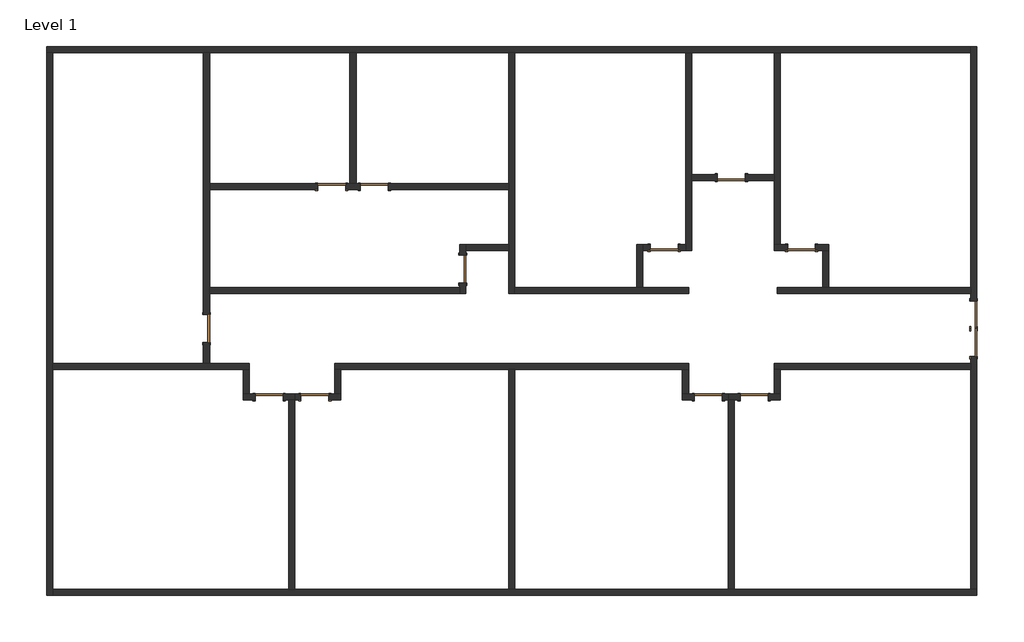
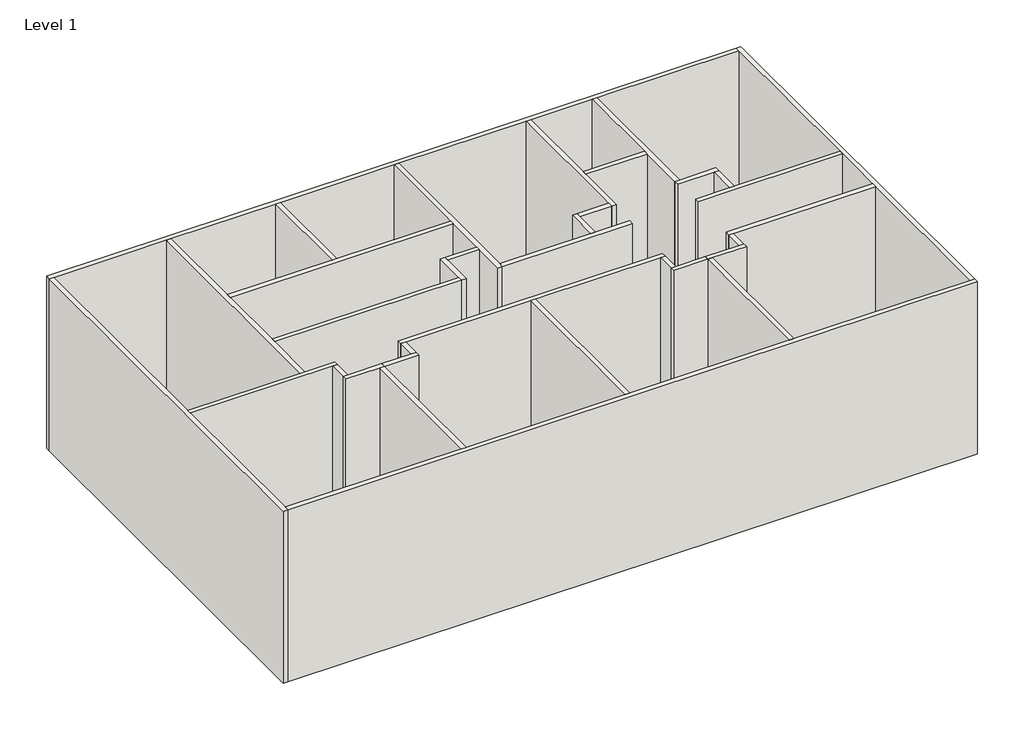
# One storey: 34 walls, 13 doors.
"""IFC4 building model written with IfcOpenShell, lengths in millimetres."""

from ifc_helpers import new_model, si_unit, frame, origin, origin_with_axes, place, context, project, spatial, polyline, outline, extrude, faceted_brep, transform, mapped, element, save
from components import m_single_flush_0915_x_2134mm_6a9e8738, m_single_flush_0915_x_2134mm_727434cd

model = new_model("IFC4")

# Units and contexts
model_context = context("Model", 3, world=origin())
ifc_project = project(units=[si_unit("LENGTHUNIT", "METRE", prefix="MILLI")], contexts=[model_context])

# Site, building, storey
site = spatial("IfcSite", under=ifc_project)
building = spatial("IfcBuilding", under=site)
storey = spatial("IfcBuildingStorey", under=building, Name="Level 1", Elevation=0.0)

# Doors
placement = place(None, origin())
m_single_flush_0915_x_2134mm_shape = m_single_flush_0915_x_2134mm_6a9e8738(model_context)
element("IfcDoor", 1, ObjectType="M_Single-Flush : 0915 x 2134mm", at=placement, inside=storey, context=model_context, shape_type="MappedRepresentation", body=[
    mapped(m_single_flush_0915_x_2134mm_shape, transform((-21354.7532324, -14862.7247407, 0.0), x_axis=(-1.0, 0.0, 0.0), y_axis=(0.0, -1.0, 0.0), z_axis=(0.0, 0.0, 1.0))),
])
element("IfcDoor", 2, ObjectType="M_Single-Flush : 0915 x 2134mm", at=placement, inside=storey, context=model_context, shape_type="MappedRepresentation", body=[
    mapped(m_single_flush_0915_x_2134mm_shape, transform((-23554.7532324, -17162.7247407, 0.0), x_axis=(-1.0, 0.0, 0.0), y_axis=(0.0, -1.0, 0.0), z_axis=(0.0, 0.0, 1.0))),
])
element("IfcDoor", 3, ObjectType="M_Single-Flush : 0915 x 2134mm", at=placement, inside=storey, context=model_context, shape_type="MappedRepresentation", body=[
    mapped(m_single_flush_0915_x_2134mm_shape, transform((-34454.7532324, -15162.7247407, 0.0), x_axis=(1.0, 0.0, 0.0), y_axis=(0.0, 1.0, 0.0), z_axis=(0.0, 0.0, 1.0))),
])
element("IfcDoor", 4, ObjectType="M_Single-Flush : 0915 x 2134mm", at=placement, inside=storey, context=model_context, shape_type="MappedRepresentation", body=[
    mapped(m_single_flush_0915_x_2134mm_shape, transform((-20604.7532324, -22062.7247407, 0.0), x_axis=(1.0, 0.0, 0.0), y_axis=(0.0, 1.0, 0.0), z_axis=(0.0, 0.0, 1.0))),
])
element("IfcDoor", 5, ObjectType="M_Single-Flush : 0915 x 2134mm", at=placement, inside=storey, context=model_context, shape_type="MappedRepresentation", body=[
    mapped(m_single_flush_0915_x_2134mm_shape, transform((-35004.7532324, -22062.7247407, 0.0), x_axis=(1.0, 0.0, 0.0), y_axis=(0.0, 1.0, 0.0), z_axis=(0.0, 0.0, 1.0))),
])
element("IfcDoor", 6, ObjectType="M_Single-Flush : 0915 x 2134mm", at=placement, inside=storey, context=model_context, shape_type="MappedRepresentation", body=[
    mapped(m_single_flush_0915_x_2134mm_shape, transform((-13412.7680392, -20274.8471091, 0.0), x_axis=(0.0, -1.0, 0.0), y_axis=(1.0, 0.0, 0.0), z_axis=(0.0, 0.0, 1.0))),
])
m_single_flush_0915_x_2134mm_2_shape = m_single_flush_0915_x_2134mm_727434cd(model_context)
element("IfcDoor", 7, ObjectType="M_Single-Flush : 0915 x 2134mm", at=placement, inside=storey, context=model_context, shape_type="MappedRepresentation", body=[
    mapped(m_single_flush_0915_x_2134mm_2_shape, transform((-19054.7532324, -17162.7247407, 0.0), x_axis=(1.0, 0.0, 0.0), y_axis=(0.0, 1.0, 0.0), z_axis=(0.0, 0.0, 1.0))),
])
element("IfcDoor", 8, ObjectType="M_Single-Flush : 0915 x 2134mm", at=placement, inside=storey, context=model_context, shape_type="MappedRepresentation", body=[
    mapped(m_single_flush_0915_x_2134mm_2_shape, transform((-30154.7532324, -17862.7247407, 0.0), x_axis=(0.0, 1.0, 0.0), y_axis=(-1.0, 0.0, 0.0), z_axis=(0.0, 0.0, 1.0))),
])
element("IfcDoor", 9, ObjectType="M_Single-Flush : 0915 x 2134mm", at=placement, inside=storey, context=model_context, shape_type="MappedRepresentation", body=[
    mapped(m_single_flush_0915_x_2134mm_2_shape, transform((-33054.7532324, -15162.7247407, 0.0), x_axis=(-1.0, 0.0, 0.0), y_axis=(0.0, -1.0, 0.0), z_axis=(0.0, 0.0, 1.0))),
])
element("IfcDoor", 10, ObjectType="M_Single-Flush : 0915 x 2134mm", at=placement, inside=storey, context=model_context, shape_type="MappedRepresentation", body=[
    mapped(m_single_flush_0915_x_2134mm_2_shape, transform((-38554.7532324, -19817.3471091, 0.0), x_axis=(0.0, 1.0, 0.0), y_axis=(-1.0, 0.0, 0.0), z_axis=(0.0, 0.0, 1.0))),
])
element("IfcDoor", 11, ObjectType="M_Single-Flush : 0915 x 2134mm", at=placement, inside=storey, context=model_context, shape_type="MappedRepresentation", body=[
    mapped(m_single_flush_0915_x_2134mm_2_shape, transform((-36504.7532324, -22062.7247407, 0.0), x_axis=(-1.0, 0.0, 0.0), y_axis=(0.0, -1.0, 0.0), z_axis=(0.0, 0.0, 1.0))),
])
element("IfcDoor", 12, ObjectType="M_Single-Flush : 0915 x 2134mm", at=placement, inside=storey, context=model_context, shape_type="MappedRepresentation", body=[
    mapped(m_single_flush_0915_x_2134mm_2_shape, transform((-22104.7532324, -22062.7247407, 0.0), x_axis=(-1.0, 0.0, 0.0), y_axis=(0.0, -1.0, 0.0), z_axis=(0.0, 0.0, 1.0))),
])
element("IfcDoor", 13, ObjectType="M_Single-Flush : 0915 x 2134mm", at=placement, inside=storey, context=model_context, shape_type="MappedRepresentation", body=[
    mapped(m_single_flush_0915_x_2134mm_2_shape, transform((-13412.7680392, -19359.8471091, 0.0), x_axis=(0.0, 1.0, 0.0), y_axis=(-1.0, 0.0, 0.0), z_axis=(0.0, 0.0, 1.0))),
])

# Walls
element("IfcWall", 14, ObjectType="Generic - 200mm", at=placement, inside=storey, context=model_context, shape_type="Brep", body=[
    faceted_brep([(-43796.7384256, -10762.7247407, 0.0), (-43596.7384256, -10762.7247407, 0.0), (-38654.7532324, -10762.7247407, 0.0), (-38454.7532324, -10762.7247407, 0.0), (-33854.7532324, -10762.7247407, 0.0), (-33654.7532324, -10762.7247407, 0.0), (-28654.7532324, -10762.7247407, 0.0), (-28454.7532324, -10762.7247407, 0.0), (-22854.7532324, -10762.7247407, 0.0), (-22654.7532324, -10762.7247407, 0.0), (-19954.7532324, -10762.7247407, 0.0), (-19754.7532324, -10762.7247407, 0.0), (-13512.7680392, -10762.7247407, 0.0), (-13512.7680392, -10762.7247407, 8000.0), (-19754.7532324, -10762.7247407, 8000.0), (-19954.7532324, -10762.7247407, 8000.0), (-22654.7532324, -10762.7247407, 8000.0), (-22854.7532324, -10762.7247407, 8000.0), (-28454.7532324, -10762.7247407, 8000.0), (-28654.7532324, -10762.7247407, 8000.0), (-33654.7532324, -10762.7247407, 8000.0), (-33854.7532324, -10762.7247407, 8000.0), (-38454.7532324, -10762.7247407, 8000.0), (-38654.7532324, -10762.7247407, 8000.0), (-43596.7384256, -10762.7247407, 8000.0), (-43796.7384256, -10762.7247407, 8000.0), (-43796.7384256, -10562.7247407, 0.0), (-43796.7384256, -10562.7247407, 8000.0), (-13512.7680392, -10562.7247407, 8000.0), (-13512.7680392, -10562.7247407, 0.0)], [[[0, 1, 2, 3, 4, 5, 6, 7, 8, 9, 10, 11, 12, 13, 14, 15, 16, 17, 18, 19, 20, 21, 22, 23, 24, 25]], [[26, 27, 28, 29]], [[12, 11, 10, 9, 8, 7, 6, 5, 4, 3, 2, 1, 0, 26, 29]], [[25, 24, 23, 22, 21, 20, 19, 18, 17, 16, 15, 14, 13, 28, 27]], [[0, 25, 27, 26]], [[13, 12, 29, 28]]]),
])
element("IfcWall", 15, ObjectType="Generic - 200mm", at=placement, inside=storey, context=model_context, shape_type="Brep", body=[
    faceted_brep([(-43596.7384256, -28562.7247407, 0.0), (-43596.7384256, -28362.7247407, 0.0), (-43596.7384256, -21162.7247407, 0.0), (-43596.7384256, -20962.7247407, 0.0), (-43596.7384256, -10762.7247407, 0.0), (-43596.7384256, -10762.7247407, 8000.0), (-43596.7384256, -20962.7247407, 8000.0), (-43596.7384256, -21162.7247407, 8000.0), (-43596.7384256, -28362.7247407, 8000.0), (-43596.7384256, -28562.7247407, 8000.0), (-43796.7384256, -28562.7247407, 0.0), (-43796.7384256, -28562.7247407, 8000.0), (-43796.7384256, -10762.7247407, 8000.0), (-43796.7384256, -10762.7247407, 0.0)], [[[0, 1, 2, 3, 4, 5, 6, 7, 8, 9]], [[10, 11, 12, 13]], [[4, 3, 2, 1, 0, 10, 13]], [[9, 8, 7, 6, 5, 12, 11]], [[0, 9, 11, 10]], [[5, 4, 13, 12]]]),
])
element("IfcWall", 16, ObjectType="Generic - 200mm", at=placement, inside=storey, context=model_context, shape_type="Brep", body=[
    faceted_brep([(-13312.7680392, -28362.7247407, 0.0), (-13512.7680392, -28362.7247407, 0.0), (-21254.7532324, -28362.7247407, 0.0), (-21454.7532324, -28362.7247407, 0.0), (-28454.7532324, -28362.7247407, 0.0), (-28654.7532324, -28362.7247407, 0.0), (-35654.7532324, -28362.7247407, 0.0), (-35854.7532324, -28362.7247407, 0.0), (-43596.7384256, -28362.7247407, 0.0), (-43596.7384256, -28362.7247407, 8000.0), (-35854.7532324, -28362.7247407, 8000.0), (-35654.7532324, -28362.7247407, 8000.0), (-28654.7532324, -28362.7247407, 8000.0), (-28454.7532324, -28362.7247407, 8000.0), (-21454.7532324, -28362.7247407, 8000.0), (-21254.7532324, -28362.7247407, 8000.0), (-13512.7680392, -28362.7247407, 8000.0), (-13312.7680392, -28362.7247407, 8000.0), (-13312.7680392, -28562.7247407, 0.0), (-13312.7680392, -28562.7247407, 8000.0), (-43596.7384256, -28562.7247407, 8000.0), (-43596.7384256, -28562.7247407, 0.0)], [[[0, 1, 2, 3, 4, 5, 6, 7, 8, 9, 10, 11, 12, 13, 14, 15, 16, 17]], [[18, 19, 20, 21]], [[8, 7, 6, 5, 4, 3, 2, 1, 0, 18, 21]], [[17, 16, 15, 14, 13, 12, 11, 10, 9, 20, 19]], [[0, 17, 19, 18]], [[9, 8, 21, 20]]]),
])
element("IfcWall", 17, ObjectType="Generic - 200mm", at=placement, inside=storey, context=model_context, shape_type="Brep", body=[
    faceted_brep([(-13512.7680392, -28362.7247407, 8000.0), (-13512.7680392, -21162.7247407, 8000.0), (-13512.7680392, -20962.7247407, 8000.0), (-13512.7680392, -18662.7247407, 8000.0), (-13512.7680392, -18462.7247407, 8000.0), (-13512.7680392, -10762.7247407, 8000.0), (-13512.7680392, -10562.7247407, 8000.0), (-13512.7680392, -10562.7247407, 0.0), (-13512.7680392, -10762.7247407, 0.0), (-13512.7680392, -18462.7247407, 0.0), (-13512.7680392, -18662.7247407, 0.0), (-13512.7680392, -18902.3471091, 0.0), (-13512.7680392, -18902.3471091, 2134.0), (-13512.7680392, -20732.3471091, 2134.0), (-13512.7680392, -20732.3471091, 0.0), (-13512.7680392, -20962.7247407, 0.0), (-13512.7680392, -21162.7247407, 0.0), (-13512.7680392, -28362.7247407, 0.0), (-13312.7680392, -10562.7247407, 8000.0), (-13312.7680392, -28362.7247407, 8000.0), (-13312.7680392, -28362.7247407, 0.0), (-13312.7680392, -20732.3471091, 0.0), (-13312.7680392, -20732.3471091, 2134.0), (-13312.7680392, -18902.3471091, 2134.0), (-13312.7680392, -18902.3471091, 0.0), (-13312.7680392, -10562.7247407, 0.0)], [[[0, 1, 2, 3, 4, 5, 6, 7, 8, 9, 10, 11, 12, 13, 14, 15, 16, 17]], [[18, 19, 20, 21, 22, 23, 24, 25]], [[7, 25, 24, 11, 10, 9, 8]], [[20, 17, 16, 15, 14, 21]], [[6, 5, 4, 3, 2, 1, 0, 19, 18]], [[7, 6, 18, 25]], [[0, 17, 20, 19]], [[22, 21, 14, 13]], [[22, 13, 12, 23]], [[23, 12, 11, 24]]]),
])
element("IfcWall", 18, ObjectType="Generic - 200mm", at=placement, inside=storey, context=model_context, shape_type="Brep", body=[
    faceted_brep([(-28654.7532324, -10762.7247407, 0.0), (-28654.7532324, -15062.7247407, 0.0), (-28654.7532324, -15262.7247407, 0.0), (-28654.7532324, -17062.7247407, 0.0), (-28654.7532324, -17262.7247407, 0.0), (-28654.7532324, -18662.7247407, 0.0), (-28654.7532324, -18662.7247407, 8000.0), (-28654.7532324, -17262.7247407, 8000.0), (-28654.7532324, -17062.7247407, 8000.0), (-28654.7532324, -15262.7247407, 8000.0), (-28654.7532324, -15062.7247407, 8000.0), (-28654.7532324, -10762.7247407, 8000.0), (-28454.7532324, -10762.7247407, 0.0), (-28454.7532324, -10762.7247407, 8000.0), (-28454.7532324, -18462.7247407, 8000.0), (-28454.7532324, -18662.7247407, 8000.0), (-28454.7532324, -18662.7247407, 0.0), (-28454.7532324, -18462.7247407, 0.0)], [[[0, 1, 2, 3, 4, 5, 6, 7, 8, 9, 10, 11]], [[12, 13, 14, 15, 16, 17]], [[5, 4, 3, 2, 1, 0, 12, 17, 16]], [[11, 10, 9, 8, 7, 6, 15, 14, 13]], [[0, 11, 13, 12]], [[6, 5, 16, 15]]]),
])
element("IfcWall", 19, ObjectType="Generic - 200mm", at=placement, inside=storey, context=model_context, shape_type="Brep", body=[
    faceted_brep([(-28454.7532324, -18662.7247407, 0.0), (-22754.7532324, -18662.7247407, 0.0), (-22754.7532324, -18662.7247407, 8000.0), (-28454.7532324, -18662.7247407, 8000.0), (-28454.7532324, -18462.7247407, 0.0), (-28454.7532324, -18462.7247407, 8000.0), (-24454.7532324, -18462.7247407, 8000.0), (-24254.7532324, -18462.7247407, 8000.0), (-22754.7532324, -18462.7247407, 8000.0), (-22754.7532324, -18462.7247407, 0.0), (-24254.7532324, -18462.7247407, 0.0), (-24454.7532324, -18462.7247407, 0.0)], [[[0, 1, 2, 3]], [[4, 5, 6, 7, 8, 9, 10, 11]], [[1, 0, 4, 11, 10, 9]], [[2, 1, 9, 8]], [[3, 2, 8, 7, 6, 5]], [[0, 3, 5, 4]]]),
])
element("IfcWall", 20, ObjectType="Generic - 200mm", at=placement, inside=storey, context=model_context, shape_type="Brep", body=[
    faceted_brep([(-43596.7384256, -21162.7247407, 0.0), (-37354.7532324, -21162.7247407, 0.0), (-37154.7532324, -21162.7247407, 0.0), (-37154.7532324, -21162.7247407, 8000.0), (-37354.7532324, -21162.7247407, 8000.0), (-43596.7384256, -21162.7247407, 8000.0), (-43596.7384256, -20962.7247407, 0.0), (-43596.7384256, -20962.7247407, 8000.0), (-38654.7532324, -20962.7247407, 8000.0), (-38454.7532324, -20962.7247407, 8000.0), (-37154.7532324, -20962.7247407, 8000.0), (-37154.7532324, -20962.7247407, 0.0), (-38454.7532324, -20962.7247407, 0.0), (-38654.7532324, -20962.7247407, 0.0)], [[[0, 1, 2, 3, 4, 5]], [[6, 7, 8, 9, 10, 11, 12, 13]], [[2, 1, 0, 6, 13, 12, 11]], [[5, 4, 3, 10, 9, 8, 7]], [[0, 5, 7, 6]], [[3, 2, 11, 10]]]),
])
element("IfcWall", 21, ObjectType="Generic - 200mm", at=placement, inside=storey, context=model_context, shape_type="Brep", body=[
    faceted_brep([(-22854.7532324, -10762.7247407, 0.0), (-22854.7532324, -17062.7247407, 0.0), (-22854.7532324, -17262.7247407, 0.0), (-22854.7532324, -17262.7247407, 8000.0), (-22854.7532324, -17062.7247407, 8000.0), (-22854.7532324, -10762.7247407, 8000.0), (-22654.7532324, -10762.7247407, 0.0), (-22654.7532324, -10762.7247407, 8000.0), (-22654.7532324, -14762.7247407, 8000.0), (-22654.7532324, -14962.7247407, 8000.0), (-22654.7532324, -17262.7247407, 8000.0), (-22654.7532324, -17262.7247407, 0.0), (-22654.7532324, -14962.7247407, 0.0), (-22654.7532324, -14762.7247407, 0.0)], [[[0, 1, 2, 3, 4, 5]], [[6, 7, 8, 9, 10, 11, 12, 13]], [[2, 1, 0, 6, 13, 12, 11]], [[5, 4, 3, 10, 9, 8, 7]], [[0, 5, 7, 6]], [[3, 2, 11, 10]]]),
])
element("IfcWall", 22, ObjectType="Generic - 200mm", at=placement, inside=storey, context=model_context, shape_type="SweptSolid", body=[
    extrude(outline(polyline([(0.0, -22654.7532324), (0.0, -21812.2532324), (2134.0, -21812.2532324), (2134.0, -20897.2532324), (0.0, -20897.2532324), (0.0, -19954.7532324), (8000.0, -19954.7532324), (8000.0, -22654.7532324), (0.0, -22654.7532324)])), frame((0.0, -14962.7247407, 0.0), z_axis=(0.0, 1.0, 0.0), x_axis=(0.0, 0.0, 1.0)), (0.0, 0.0, 1.0), 200.0),
])
element("IfcWall", 23, ObjectType="Generic - 200mm", at=placement, inside=storey, context=model_context, shape_type="Brep", body=[
    faceted_brep([(-19954.7532324, -10762.7247407, 0.0), (-19954.7532324, -14762.7247407, 0.0), (-19954.7532324, -14962.7247407, 0.0), (-19954.7532324, -17062.7247407, 0.0), (-19954.7532324, -17062.7247407, 8000.0), (-19954.7532324, -14962.7247407, 8000.0), (-19954.7532324, -14762.7247407, 8000.0), (-19954.7532324, -10762.7247407, 8000.0), (-19754.7532324, -10762.7247407, 0.0), (-19754.7532324, -10762.7247407, 8000.0), (-19754.7532324, -17062.7247407, 8000.0), (-19754.7532324, -17062.7247407, 0.0)], [[[0, 1, 2, 3, 4, 5, 6, 7]], [[8, 9, 10, 11]], [[3, 2, 1, 0, 8, 11]], [[7, 6, 5, 4, 10, 9]], [[0, 7, 9, 8]], [[4, 3, 11, 10]]]),
])
element("IfcWall", 24, ObjectType="Generic - 200mm", at=placement, inside=storey, context=model_context, shape_type="SweptSolid", body=[
    extrude(outline(polyline([(-35854.7532324, -28362.7247407), (-35854.7532324, -22162.7247407), (-35654.7532324, -22162.7247407), (-35654.7532324, -28362.7247407), (-35854.7532324, -28362.7247407)])), origin_with_axes(), (0.0, 0.0, 1.0), 8000.0),
])
element("IfcWall", 25, ObjectType="Generic - 200mm", at=placement, inside=storey, context=model_context, shape_type="SweptSolid", body=[
    extrude(outline(polyline([(-28654.7532324, -28362.7247407), (-28654.7532324, -21162.7247407), (-28454.7532324, -21162.7247407), (-28454.7532324, -28362.7247407), (-28654.7532324, -28362.7247407)])), origin_with_axes(), (0.0, 0.0, 1.0), 8000.0),
])
element("IfcWall", 26, ObjectType="Generic - 200mm", at=placement, inside=storey, context=model_context, shape_type="SweptSolid", body=[
    extrude(outline(polyline([(-21454.7532324, -28362.7247407), (-21454.7532324, -22162.7247407), (-21254.7532324, -22162.7247407), (-21254.7532324, -28362.7247407), (-21454.7532324, -28362.7247407)])), origin_with_axes(), (0.0, 0.0, 1.0), 8000.0),
])
element("IfcWall", 27, ObjectType="Generic - 200mm", at=placement, inside=storey, context=model_context, shape_type="SweptSolid", body=[
    extrude(outline(polyline([(-38454.7532324, -18462.7247407), (-30254.7532324, -18462.7247407), (-30254.7532324, -18662.7247407), (-38454.7532324, -18662.7247407), (-38454.7532324, -18462.7247407)])), origin_with_axes(), (0.0, 0.0, 1.0), 8000.0),
])
element("IfcWall", 28, ObjectType="Generic - 200mm", at=placement, inside=storey, context=model_context, shape_type="Brep", body=[
    faceted_brep([(-38654.7532324, -10762.7247407, 0.0), (-38654.7532324, -19359.8471091, 0.0), (-38654.7532324, -19359.8471091, 2134.0), (-38654.7532324, -20274.8471091, 2134.0), (-38654.7532324, -20274.8471091, 0.0), (-38654.7532324, -20962.7247407, 0.0), (-38654.7532324, -20962.7247407, 8000.0), (-38654.7532324, -10762.7247407, 8000.0), (-38454.7532324, -19359.8471091, 2134.0), (-38454.7532324, -19359.8471091, 0.0), (-38454.7532324, -18662.7247407, 0.0), (-38454.7532324, -18462.7247407, 0.0), (-38454.7532324, -15262.7247407, 0.0), (-38454.7532324, -15062.7247407, 0.0), (-38454.7532324, -10762.7247407, 0.0), (-38454.7532324, -10762.7247407, 8000.0), (-38454.7532324, -15062.7247407, 8000.0), (-38454.7532324, -15262.7247407, 8000.0), (-38454.7532324, -18462.7247407, 8000.0), (-38454.7532324, -18662.7247407, 8000.0), (-38454.7532324, -20962.7247407, 8000.0), (-38454.7532324, -20962.7247407, 0.0), (-38454.7532324, -20274.8471091, 0.0), (-38454.7532324, -20274.8471091, 2134.0)], [[[0, 1, 2, 3, 4, 5, 6, 7]], [[8, 9, 10, 11, 12, 13, 14, 15, 16, 17, 18, 19, 20, 21, 22, 23]], [[22, 21, 5, 4]], [[14, 13, 12, 11, 10, 9, 1, 0]], [[7, 6, 20, 19, 18, 17, 16, 15]], [[0, 7, 15, 14]], [[2, 1, 9, 8]], [[3, 2, 8, 23]], [[4, 3, 23, 22]], [[6, 5, 21, 20]]]),
])
element("IfcWall", 29, ObjectType="Generic - 200mm", at=placement, inside=storey, context=model_context, shape_type="Brep", body=[
    faceted_brep([(-19854.7532324, -18662.7247407, 0.0), (-13512.7680392, -18662.7247407, 0.0), (-13512.7680392, -18662.7247407, 8000.0), (-19854.7532324, -18662.7247407, 8000.0), (-19854.7532324, -18462.7247407, 0.0), (-19854.7532324, -18462.7247407, 8000.0), (-18354.7532324, -18462.7247407, 8000.0), (-18154.7532324, -18462.7247407, 8000.0), (-13512.7680392, -18462.7247407, 8000.0), (-13512.7680392, -18462.7247407, 0.0), (-18154.7532324, -18462.7247407, 0.0), (-18354.7532324, -18462.7247407, 0.0)], [[[0, 1, 2, 3]], [[4, 5, 6, 7, 8, 9, 10, 11]], [[1, 0, 4, 11, 10, 9]], [[3, 2, 8, 7, 6, 5]], [[0, 3, 5, 4]], [[2, 1, 9, 8]]]),
])
element("IfcWall", 30, ObjectType="Generic - 200mm", at=placement, inside=storey, context=model_context, shape_type="SweptSolid", body=[
    extrude(outline(polyline([(-33854.7532324, -15062.7247407), (-33854.7532324, -10762.7247407), (-33654.7532324, -10762.7247407), (-33654.7532324, -15062.7247407), (-33854.7532324, -15062.7247407)])), origin_with_axes(), (0.0, 0.0, 1.0), 8000.0),
])
element("IfcWall", 31, ObjectType="Generic - 200mm", at=placement, inside=storey, context=model_context, shape_type="Brep", body=[
    faceted_brep([(-33512.2532324, -15062.7247407, 2134.0), (-33512.2532324, -15062.7247407, 0.0), (-33654.7532324, -15062.7247407, 0.0), (-33854.7532324, -15062.7247407, 0.0), (-33997.2532324, -15062.7247407, 0.0), (-33997.2532324, -15062.7247407, 2134.0), (-34912.2532324, -15062.7247407, 2134.0), (-34912.2532324, -15062.7247407, 0.0), (-38454.7532324, -15062.7247407, 0.0), (-38454.7532324, -15062.7247407, 8000.0), (-33854.7532324, -15062.7247407, 8000.0), (-33654.7532324, -15062.7247407, 8000.0), (-28654.7532324, -15062.7247407, 8000.0), (-28654.7532324, -15062.7247407, 0.0), (-32597.2532324, -15062.7247407, 0.0), (-32597.2532324, -15062.7247407, 2134.0), (-33997.2532324, -15262.7247407, 0.0), (-33512.2532324, -15262.7247407, 0.0), (-33512.2532324, -15262.7247407, 2134.0), (-32597.2532324, -15262.7247407, 2134.0), (-32597.2532324, -15262.7247407, 0.0), (-28654.7532324, -15262.7247407, 0.0), (-28654.7532324, -15262.7247407, 8000.0), (-38454.7532324, -15262.7247407, 8000.0), (-38454.7532324, -15262.7247407, 0.0), (-34912.2532324, -15262.7247407, 0.0), (-34912.2532324, -15262.7247407, 2134.0), (-33997.2532324, -15262.7247407, 2134.0)], [[[0, 1, 2, 3, 4, 5, 6, 7, 8, 9, 10, 11, 12, 13, 14, 15]], [[16, 17, 18, 19, 20, 21, 22, 23, 24, 25, 26, 27]], [[25, 24, 8, 7]], [[14, 13, 21, 20]], [[4, 3, 2, 1, 17, 16]], [[12, 11, 10, 9, 23, 22]], [[13, 12, 22, 21]], [[9, 8, 24, 23]], [[5, 4, 16, 27]], [[6, 5, 27, 26]], [[7, 6, 26, 25]], [[18, 17, 1, 0]], [[19, 18, 0, 15]], [[20, 19, 15, 14]]]),
])
element("IfcWall", 32, ObjectType="Generic - 200mm", at=placement, inside=storey, context=model_context, shape_type="Brep", body=[
    faceted_brep([(-30054.7532324, -17405.2247407, 2134.0), (-30054.7532324, -17405.2247407, 0.0), (-30054.7532324, -17262.7247407, 0.0), (-30054.7532324, -17062.7247407, 0.0), (-30054.7532324, -17062.7247407, 8000.0), (-30054.7532324, -17262.7247407, 8000.0), (-30054.7532324, -18662.7247407, 8000.0), (-30054.7532324, -18662.7247407, 0.0), (-30054.7532324, -18320.2247407, 0.0), (-30054.7532324, -18320.2247407, 2134.0), (-30254.7532324, -17062.7247407, 0.0), (-30254.7532324, -17405.2247407, 0.0), (-30254.7532324, -17405.2247407, 2134.0), (-30254.7532324, -18320.2247407, 2134.0), (-30254.7532324, -18320.2247407, 0.0), (-30254.7532324, -18462.7247407, 0.0), (-30254.7532324, -18662.7247407, 0.0), (-30254.7532324, -18662.7247407, 8000.0), (-30254.7532324, -18462.7247407, 8000.0), (-30254.7532324, -17062.7247407, 8000.0)], [[[0, 1, 2, 3, 4, 5, 6, 7, 8, 9]], [[10, 11, 12, 13, 14, 15, 16, 17, 18, 19]], [[8, 7, 16, 15, 14]], [[3, 2, 1, 11, 10]], [[6, 5, 4, 19, 18, 17]], [[4, 3, 10, 19]], [[7, 6, 17, 16]], [[12, 11, 1, 0]], [[13, 12, 0, 9]], [[14, 13, 9, 8]]]),
])
element("IfcWall", 33, ObjectType="Generic - 200mm", at=placement, inside=storey, context=model_context, shape_type="SweptSolid", body=[
    extrude(outline(polyline([(-28654.7532324, -17262.7247407), (-30054.7532324, -17262.7247407), (-30054.7532324, -17062.7247407), (-28654.7532324, -17062.7247407), (-28654.7532324, -17262.7247407)])), origin_with_axes(), (0.0, 0.0, 1.0), 8000.0),
])
element("IfcWall", 34, ObjectType="Generic - 200mm", at=placement, inside=storey, context=model_context, shape_type="Brep", body=[
    faceted_brep([(-24254.7532324, -18462.7247407, 0.0), (-24254.7532324, -17262.7247407, 0.0), (-24254.7532324, -17062.7247407, 0.0), (-24254.7532324, -17062.7247407, 8000.0), (-24254.7532324, -17262.7247407, 8000.0), (-24254.7532324, -18462.7247407, 8000.0), (-24454.7532324, -18462.7247407, 0.0), (-24454.7532324, -18462.7247407, 8000.0), (-24454.7532324, -17062.7247407, 8000.0), (-24454.7532324, -17062.7247407, 0.0)], [[[0, 1, 2, 3, 4, 5]], [[6, 7, 8, 9]], [[2, 1, 0, 6, 9]], [[5, 4, 3, 8, 7]], [[0, 5, 7, 6]], [[3, 2, 9, 8]]]),
])
element("IfcWall", 35, ObjectType="Generic - 200mm", at=placement, inside=storey, context=model_context, shape_type="SweptSolid", body=[
    extrude(outline(polyline([(0.0, -24254.7532324), (0.0, -24012.2532324), (2134.0, -24012.2532324), (2134.0, -23097.2532324), (0.0, -23097.2532324), (0.0, -22854.7532324), (8000.0, -22854.7532324), (8000.0, -24254.7532324), (0.0, -24254.7532324)])), frame((0.0, -17262.7247407, 0.0), z_axis=(0.0, 1.0, 0.0), x_axis=(0.0, 0.0, 1.0)), (0.0, 0.0, 1.0), 200.0),
])
element("IfcWall", 36, ObjectType="Generic - 200mm", at=placement, inside=storey, context=model_context, shape_type="Brep", body=[
    faceted_brep([(-18597.2532324, -17262.7247407, 2134.0), (-18597.2532324, -17262.7247407, 0.0), (-18354.7532324, -17262.7247407, 0.0), (-18154.7532324, -17262.7247407, 0.0), (-18154.7532324, -17262.7247407, 8000.0), (-18354.7532324, -17262.7247407, 8000.0), (-19954.7532324, -17262.7247407, 8000.0), (-19954.7532324, -17262.7247407, 0.0), (-19512.2532324, -17262.7247407, 0.0), (-19512.2532324, -17262.7247407, 2134.0), (-18154.7532324, -17062.7247407, 0.0), (-18597.2532324, -17062.7247407, 0.0), (-18597.2532324, -17062.7247407, 2134.0), (-19512.2532324, -17062.7247407, 2134.0), (-19512.2532324, -17062.7247407, 0.0), (-19754.7532324, -17062.7247407, 0.0), (-19954.7532324, -17062.7247407, 0.0), (-19954.7532324, -17062.7247407, 8000.0), (-19754.7532324, -17062.7247407, 8000.0), (-18154.7532324, -17062.7247407, 8000.0)], [[[0, 1, 2, 3, 4, 5, 6, 7, 8, 9]], [[10, 11, 12, 13, 14, 15, 16, 17, 18, 19]], [[8, 7, 16, 15, 14]], [[3, 2, 1, 11, 10]], [[6, 5, 4, 19, 18, 17]], [[4, 3, 10, 19]], [[12, 11, 1, 0]], [[13, 12, 0, 9]], [[14, 13, 9, 8]], [[7, 6, 17, 16]]]),
])
element("IfcWall", 37, ObjectType="Generic - 200mm", at=placement, inside=storey, context=model_context, shape_type="SweptSolid", body=[
    extrude(outline(polyline([(-18354.7532324, -18462.7247407), (-18354.7532324, -17262.7247407), (-18154.7532324, -17262.7247407), (-18154.7532324, -18462.7247407), (-18354.7532324, -18462.7247407)])), origin_with_axes(), (0.0, 0.0, 1.0), 8000.0),
])
element("IfcWall", 38, ObjectType="Generic - 200mm", at=placement, inside=storey, context=model_context, shape_type="Brep", body=[
    faceted_brep([(-37354.7532324, -22162.7247407, 0.0), (-36962.2532324, -22162.7247407, 0.0), (-36962.2532324, -22162.7247407, 2134.0), (-36047.2532324, -22162.7247407, 2134.0), (-36047.2532324, -22162.7247407, 0.0), (-35854.7532324, -22162.7247407, 0.0), (-35654.7532324, -22162.7247407, 0.0), (-35654.7532324, -22162.7247407, 8000.0), (-35854.7532324, -22162.7247407, 8000.0), (-37354.7532324, -22162.7247407, 8000.0), (-36962.2532324, -21962.7247407, 2134.0), (-36962.2532324, -21962.7247407, 0.0), (-37154.7532324, -21962.7247407, 0.0), (-37354.7532324, -21962.7247407, 0.0), (-37354.7532324, -21962.7247407, 8000.0), (-37154.7532324, -21962.7247407, 8000.0), (-35654.7532324, -21962.7247407, 8000.0), (-35654.7532324, -21962.7247407, 0.0), (-36047.2532324, -21962.7247407, 0.0), (-36047.2532324, -21962.7247407, 2134.0)], [[[0, 1, 2, 3, 4, 5, 6, 7, 8, 9]], [[10, 11, 12, 13, 14, 15, 16, 17, 18, 19]], [[18, 17, 6, 5, 4]], [[13, 12, 11, 1, 0]], [[9, 8, 7, 16, 15, 14]], [[2, 1, 11, 10]], [[3, 2, 10, 19]], [[4, 3, 19, 18]], [[0, 9, 14, 13]], [[7, 6, 17, 16]]]),
])
element("IfcWall", 39, ObjectType="Generic - 200mm", at=placement, inside=storey, context=model_context, shape_type="SweptSolid", body=[
    extrude(outline(polyline([(-37354.7532324, -21962.7247407), (-37354.7532324, -21162.7247407), (-37154.7532324, -21162.7247407), (-37154.7532324, -21962.7247407), (-37354.7532324, -21962.7247407)])), origin_with_axes(), (0.0, 0.0, 1.0), 8000.0),
])
element("IfcWall", 40, ObjectType="Generic - 200mm", at=placement, inside=storey, context=model_context, shape_type="Brep", body=[
    faceted_brep([(-34354.7532324, -21162.7247407, 0.0), (-34154.7532324, -21162.7247407, 0.0), (-28654.7532324, -21162.7247407, 0.0), (-28454.7532324, -21162.7247407, 0.0), (-22954.7532324, -21162.7247407, 0.0), (-22754.7532324, -21162.7247407, 0.0), (-22754.7532324, -21162.7247407, 8000.0), (-22954.7532324, -21162.7247407, 8000.0), (-28454.7532324, -21162.7247407, 8000.0), (-28654.7532324, -21162.7247407, 8000.0), (-34154.7532324, -21162.7247407, 8000.0), (-34354.7532324, -21162.7247407, 8000.0), (-34354.7532324, -20962.7247407, 0.0), (-34354.7532324, -20962.7247407, 8000.0), (-22754.7532324, -20962.7247407, 8000.0), (-22754.7532324, -20962.7247407, 0.0)], [[[0, 1, 2, 3, 4, 5, 6, 7, 8, 9, 10, 11]], [[12, 13, 14, 15]], [[5, 4, 3, 2, 1, 0, 12, 15]], [[11, 10, 9, 8, 7, 6, 14, 13]], [[6, 5, 15, 14]], [[0, 11, 13, 12]]]),
])
element("IfcWall", 41, ObjectType="Generic - 200mm", at=placement, inside=storey, context=model_context, shape_type="Brep", body=[
    faceted_brep([(-22954.7532324, -22162.7247407, 0.0), (-22562.2532324, -22162.7247407, 0.0), (-22562.2532324, -22162.7247407, 2134.0), (-21647.2532324, -22162.7247407, 2134.0), (-21647.2532324, -22162.7247407, 0.0), (-21454.7532324, -22162.7247407, 0.0), (-21454.7532324, -22162.7247407, 8000.0), (-22954.7532324, -22162.7247407, 8000.0), (-22562.2532324, -21962.7247407, 2134.0), (-22562.2532324, -21962.7247407, 0.0), (-22754.7532324, -21962.7247407, 0.0), (-22954.7532324, -21962.7247407, 0.0), (-22954.7532324, -21962.7247407, 8000.0), (-22754.7532324, -21962.7247407, 8000.0), (-21454.7532324, -21962.7247407, 8000.0), (-21454.7532324, -21962.7247407, 0.0), (-21647.2532324, -21962.7247407, 0.0), (-21647.2532324, -21962.7247407, 2134.0)], [[[0, 1, 2, 3, 4, 5, 6, 7]], [[8, 9, 10, 11, 12, 13, 14, 15, 16, 17]], [[16, 15, 5, 4]], [[11, 10, 9, 1, 0]], [[7, 6, 14, 13, 12]], [[2, 1, 9, 8]], [[3, 2, 8, 17]], [[4, 3, 17, 16]], [[0, 7, 12, 11]], [[6, 5, 15, 14]]]),
])
element("IfcWall", 42, ObjectType="Generic - 200mm", at=placement, inside=storey, context=model_context, shape_type="SweptSolid", body=[
    extrude(outline(polyline([(-22954.7532324, -21962.7247407), (-22954.7532324, -21162.7247407), (-22754.7532324, -21162.7247407), (-22754.7532324, -21962.7247407), (-22954.7532324, -21962.7247407)])), origin_with_axes(), (0.0, 0.0, 1.0), 8000.0),
])
element("IfcWall", 43, ObjectType="Generic - 200mm", at=placement, inside=storey, context=model_context, shape_type="Brep", body=[
    faceted_brep([(-19954.7532324, -21162.7247407, 0.0), (-19754.7532324, -21162.7247407, 0.0), (-13512.7680392, -21162.7247407, 0.0), (-13512.7680392, -21162.7247407, 8000.0), (-19754.7532324, -21162.7247407, 8000.0), (-19954.7532324, -21162.7247407, 8000.0), (-19954.7532324, -20962.7247407, 0.0), (-19954.7532324, -20962.7247407, 8000.0), (-13512.7680392, -20962.7247407, 8000.0), (-13512.7680392, -20962.7247407, 0.0)], [[[0, 1, 2, 3, 4, 5]], [[6, 7, 8, 9]], [[2, 1, 0, 6, 9]], [[5, 4, 3, 8, 7]], [[3, 2, 9, 8]], [[0, 5, 7, 6]]]),
])
element("IfcWall", 44, ObjectType="Generic - 200mm", at=placement, inside=storey, context=model_context, shape_type="Brep", body=[
    faceted_brep([(-19754.7532324, -21962.7247407, 0.0), (-19954.7532324, -21962.7247407, 0.0), (-20147.2532324, -21962.7247407, 0.0), (-20147.2532324, -21962.7247407, 2134.0), (-21062.2532324, -21962.7247407, 2134.0), (-21062.2532324, -21962.7247407, 0.0), (-21454.7532324, -21962.7247407, 0.0), (-21454.7532324, -21962.7247407, 8000.0), (-19954.7532324, -21962.7247407, 8000.0), (-19754.7532324, -21962.7247407, 8000.0), (-20147.2532324, -22162.7247407, 2134.0), (-20147.2532324, -22162.7247407, 0.0), (-19754.7532324, -22162.7247407, 0.0), (-19754.7532324, -22162.7247407, 8000.0), (-21254.7532324, -22162.7247407, 8000.0), (-21454.7532324, -22162.7247407, 8000.0), (-21454.7532324, -22162.7247407, 0.0), (-21254.7532324, -22162.7247407, 0.0), (-21062.2532324, -22162.7247407, 0.0), (-21062.2532324, -22162.7247407, 2134.0)], [[[0, 1, 2, 3, 4, 5, 6, 7, 8, 9]], [[10, 11, 12, 13, 14, 15, 16, 17, 18, 19]], [[12, 11, 2, 1, 0]], [[18, 17, 16, 6, 5]], [[9, 8, 7, 15, 14, 13]], [[3, 2, 11, 10]], [[4, 3, 10, 19]], [[5, 4, 19, 18]], [[0, 9, 13, 12]], [[7, 6, 16, 15]]]),
])
element("IfcWall", 45, ObjectType="Generic - 200mm", at=placement, inside=storey, context=model_context, shape_type="SweptSolid", body=[
    extrude(outline(polyline([(-19954.7532324, -21962.7247407), (-19954.7532324, -21162.7247407), (-19754.7532324, -21162.7247407), (-19754.7532324, -21962.7247407), (-19954.7532324, -21962.7247407)])), origin_with_axes(), (0.0, 0.0, 1.0), 8000.0),
])
element("IfcWall", 46, ObjectType="Generic - 200mm", at=placement, inside=storey, context=model_context, shape_type="Brep", body=[
    faceted_brep([(-34154.7532324, -21962.7247407, 0.0), (-34354.7532324, -21962.7247407, 0.0), (-34547.2532324, -21962.7247407, 0.0), (-34547.2532324, -21962.7247407, 2134.0), (-35462.2532324, -21962.7247407, 2134.0), (-35462.2532324, -21962.7247407, 0.0), (-35654.7532324, -21962.7247407, 0.0), (-35654.7532324, -21962.7247407, 8000.0), (-34354.7532324, -21962.7247407, 8000.0), (-34154.7532324, -21962.7247407, 8000.0), (-34547.2532324, -22162.7247407, 2134.0), (-34547.2532324, -22162.7247407, 0.0), (-34154.7532324, -22162.7247407, 0.0), (-34154.7532324, -22162.7247407, 8000.0), (-35654.7532324, -22162.7247407, 8000.0), (-35654.7532324, -22162.7247407, 0.0), (-35462.2532324, -22162.7247407, 0.0), (-35462.2532324, -22162.7247407, 2134.0)], [[[0, 1, 2, 3, 4, 5, 6, 7, 8, 9]], [[10, 11, 12, 13, 14, 15, 16, 17]], [[16, 15, 6, 5]], [[12, 11, 2, 1, 0]], [[9, 8, 7, 14, 13]], [[3, 2, 11, 10]], [[4, 3, 10, 17]], [[5, 4, 17, 16]], [[0, 9, 13, 12]], [[7, 6, 15, 14]]]),
])
element("IfcWall", 47, ObjectType="Generic - 200mm", at=placement, inside=storey, context=model_context, shape_type="SweptSolid", body=[
    extrude(outline(polyline([(-34354.7532324, -21962.7247407), (-34354.7532324, -21162.7247407), (-34154.7532324, -21162.7247407), (-34154.7532324, -21962.7247407), (-34354.7532324, -21962.7247407)])), origin_with_axes(), (0.0, 0.0, 1.0), 8000.0),
])

save(model, "model.ifc")
